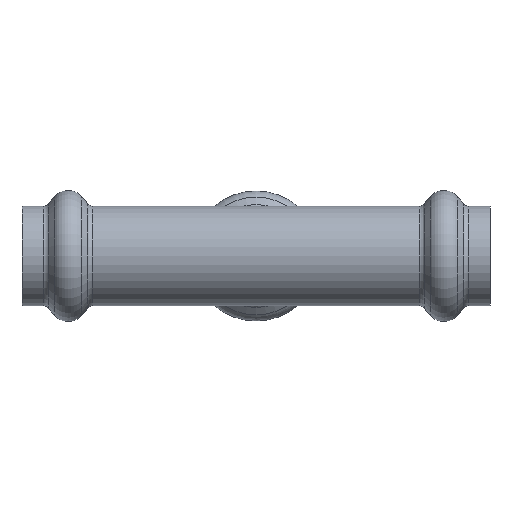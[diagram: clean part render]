
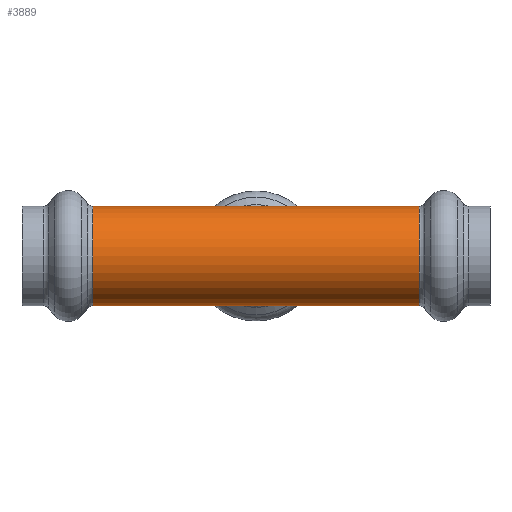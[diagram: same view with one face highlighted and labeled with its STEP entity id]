
A CAD part, front view. The second image highlights one B-rep face of the part: STEP entity #3889.
In plain terms, the highlighted cylindrical face has radius 7.55 mm (diameter 15.1 mm), a partial arc.
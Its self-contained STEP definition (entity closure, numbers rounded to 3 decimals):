
#146 = LINE ( 'NONE', #1808, #1035 ) ;
#177 = CARTESIAN_POINT ( 'NONE',  ( -58.611, 0., -7.55 ) ) ;
#202 = ORIENTED_EDGE ( 'NONE', *, *, #702, .T. ) ;
#378 = VERTEX_POINT ( 'NONE', #407 ) ;
#388 = DIRECTION ( 'NONE',  ( 0., 0., 1. ) ) ;
#407 = CARTESIAN_POINT ( 'NONE',  ( -24.761, 0., 7.55 ) ) ;
#702 = EDGE_CURVE ( 'NONE', #2922, #378, #146, .T. ) ;
#763 = CARTESIAN_POINT ( 'NONE',  ( 24.761, 0., 7.55 ) ) ;
#777 = VERTEX_POINT ( 'NONE', #2860 ) ;
#832 = CIRCLE ( 'NONE', #996, 7.55 ) ;
#863 = EDGE_CURVE ( 'NONE', #2409, #2922, #2403, .T. ) ;
#976 = DIRECTION ( 'NONE',  ( -1., 0., 0. ) ) ;
#996 = AXIS2_PLACEMENT_3D ( 'NONE', #1850, #2129, #1841 ) ;
#1035 = VECTOR ( 'NONE', #1480, 1000. ) ;
#1051 = EDGE_CURVE ( 'NONE', #2409, #777, #3381, .T. ) ;
#1264 = CARTESIAN_POINT ( 'NONE',  ( 24.761, 0., -7.55 ) ) ;
#1275 = EDGE_LOOP ( 'NONE', ( #3578, #2936, #202, #3568 ) ) ;
#1356 = DIRECTION ( 'NONE',  ( -1., 0., 0. ) ) ;
#1364 = AXIS2_PLACEMENT_3D ( 'NONE', #2379, #1356, #388 ) ;
#1480 = DIRECTION ( 'NONE',  ( -1., 0., 0. ) ) ;
#1600 = EDGE_CURVE ( 'NONE', #378, #777, #832, .T. ) ;
#1725 = CYLINDRICAL_SURFACE ( 'NONE', #1364, 7.55 ) ;
#1808 = CARTESIAN_POINT ( 'NONE',  ( -58.611, 0., 7.55 ) ) ;
#1841 = DIRECTION ( 'NONE',  ( 0., 0., -1. ) ) ;
#1850 = CARTESIAN_POINT ( 'NONE',  ( -24.761, 0., 0. ) ) ;
#1906 = DIRECTION ( 'NONE',  ( 0., 0., 1. ) ) ;
#2104 = DIRECTION ( 'NONE',  ( -1., 0., 0. ) ) ;
#2129 = DIRECTION ( 'NONE',  ( 1., 0., 0. ) ) ;
#2379 = CARTESIAN_POINT ( 'NONE',  ( -58.611, 0., 0. ) ) ;
#2403 = CIRCLE ( 'NONE', #3832, 7.55 ) ;
#2409 = VERTEX_POINT ( 'NONE', #1264 ) ;
#2860 = CARTESIAN_POINT ( 'NONE',  ( -24.761, 0., -7.55 ) ) ;
#2917 = CARTESIAN_POINT ( 'NONE',  ( 24.761, 0., 0. ) ) ;
#2922 = VERTEX_POINT ( 'NONE', #763 ) ;
#2936 = ORIENTED_EDGE ( 'NONE', *, *, #863, .T. ) ;
#3381 = LINE ( 'NONE', #177, #3474 ) ;
#3449 = FACE_OUTER_BOUND ( 'NONE', #1275, .T. ) ;
#3474 = VECTOR ( 'NONE', #976, 1000. ) ;
#3568 = ORIENTED_EDGE ( 'NONE', *, *, #1600, .T. ) ;
#3578 = ORIENTED_EDGE ( 'NONE', *, *, #1051, .F. ) ;
#3832 = AXIS2_PLACEMENT_3D ( 'NONE', #2917, #2104, #1906 ) ;
#3889 = ADVANCED_FACE ( 'NONE', ( #3449 ), #1725, .T. ) ;
